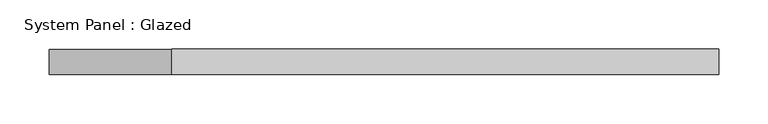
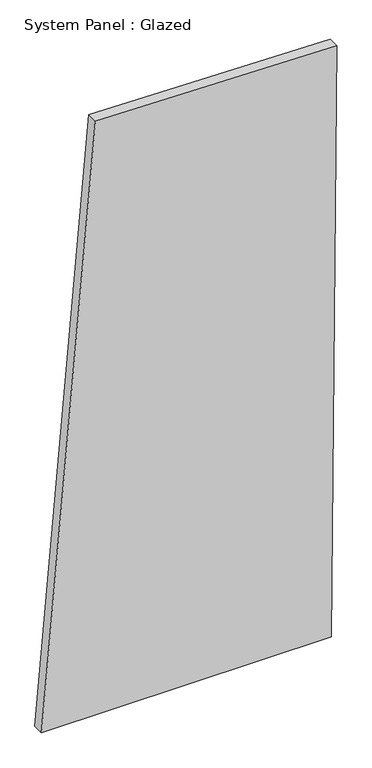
"""IFC4 building model written with IfcOpenShell, lengths in millimetres: plate geometry, System Panel : Glazed."""

from ifc_helpers import new_model, si_unit, frame, origin, place, context, project, spatial, polyline, outline, extrude, source, transform, mapped, element, save


def system_panel_glazed_f1b1a658(model_context):
    return source(origin(), model_context, "Body", "SweptSolid", [
        extrude(outline(polyline([(0.0, -338.0546087), (0.0, 325.3566085), (1426.5281708, 338.0546087), (1437.2665686, -214.5267348), (0.0, -338.0546087)])), frame((0.0, -44.45, 0.0), z_axis=(0.0, 1.0, 0.0), x_axis=(0.0, 0.0, 1.0)), (0.0, 0.0, 1.0), 25.4),
    ])


if __name__ == "__main__":
    model = new_model("IFC4")
    model_context = context("Model", 3, world=origin())
    ifc_project = project(units=[si_unit("LENGTHUNIT", "METRE", prefix="MILLI")], contexts=[model_context])
    site = spatial("IfcSite", under=ifc_project)
    building = spatial("IfcBuilding", under=site)
    placement = place(None, origin())
    system_panel_glazed_shape = system_panel_glazed_f1b1a658(model_context)
    element("IfcPlate", 1, ObjectType="System Panel : Glazed", at=placement, inside=building, context=model_context, shape_type="MappedRepresentation", body=[
        mapped(system_panel_glazed_shape, transform((0.0, 0.0, 0.0), x_axis=(1.0, 0.0, 0.0), y_axis=(0.0, 1.0, 0.0), z_axis=(0.0, 0.0, 1.0))),
    ])
    save(model, "model.ifc")
